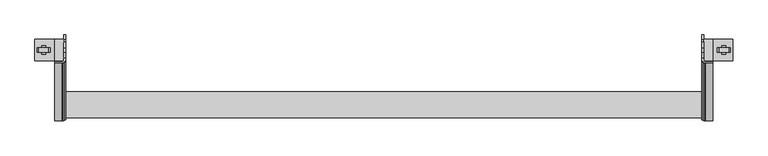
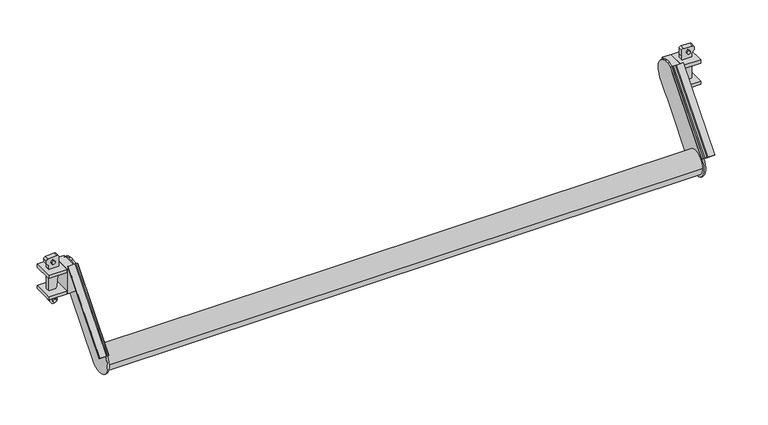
"""IFC4 building model written with IfcOpenShell, lengths in millimetres: proxy geometry, アルバトロスＡＫ階段受け_軽 : アルバトロスＡＫ階段受けL=1200."""

import ifcopenshell
import ifcopenshell.guid

model = None  # the IFC model being written
_history = None  # IfcOwnerHistory: only IFC2X3 demands one
_inside = {}  # id of a spatial element -> (the spatial element, [elements in it])
_under = {}  # id of a project, library or spatial element -> (it, [spatial elements below it])
_declared = {}  # id of a project -> (the project, [libraries it declares])
_typed = {}  # id of a type object -> (the type object, [elements of that type])
_made_of = {}  # id of a material, layer set ... -> (it, [elements and type objects made of it])


def new_model(schema):
    """Start an empty IFC model of exactly this schema.

    Asked for "IFC4X3", IfcOpenShell would pick the latest addendum, in which some entities
    have other attributes; the version numbers below select the first issue.
    IFC2X3 requires an IfcOwnerHistory on every rooted entity: one is made here for all.
    """
    global model, _history
    if schema == "IFC4X3":
        model = ifcopenshell.file(schema_version=(4, 3, 0, 0))
    else:
        model = ifcopenshell.file(schema=schema)
    _inside.clear()
    _under.clear()
    _declared.clear()
    _typed.clear()
    _made_of.clear()
    _history = None
    if model.schema == "IFC2X3":
        org = make("IfcOrganization", Name="unknown")
        user = make(
            "IfcPersonAndOrganization",
            ThePerson=make("IfcPerson", FamilyName="unknown"),
            TheOrganization=org,
        )
        app = make(
            "IfcApplication",
            ApplicationDeveloper=org,
            Version="unknown",
            ApplicationFullName="unknown",
            ApplicationIdentifier="unknown",
        )
        _history = make(
            "IfcOwnerHistory",
            OwningUser=user,
            OwningApplication=app,
            ChangeAction="ADDED",
            CreationDate=0,
        )
    return model


def make(cls, **values):
    """One entity of the class cls with the attributes given. An attribute that is None is left unset."""
    return model.create_entity(
        cls, **{name: value for name, value in values.items() if value is not None}
    )


def rooted(cls, **values):
    """An entity with a GlobalId (a new one), such as an element, a storey or a relation."""
    return make(cls, GlobalId=ifcopenshell.guid.new(), OwnerHistory=_history, **values)


def si_unit(unit_type, name, prefix=None):
    """IfcSIUnit, for example si_unit("LENGTHUNIT", "METRE", prefix="MILLI")."""
    return make("IfcSIUnit", UnitType=unit_type, Prefix=prefix, Name=name)


def assignment(units):
    """IfcUnitAssignment: the units of a project."""
    return None if units is None else make("IfcUnitAssignment", Units=units)


def point(xyz):
    """IfcCartesianPoint."""
    return None if xyz is None else make("IfcCartesianPoint", Coordinates=xyz)


def direction(xyz):
    """IfcDirection."""
    return None if xyz is None else make("IfcDirection", DirectionRatios=xyz)


def frame(location, z_axis=None, x_axis=None):
    """IfcAxis2Placement3D, a coordinate frame: its origin and axes. An axis left out is left unset."""
    return make(
        "IfcAxis2Placement3D",
        Location=point(location),
        Axis=direction(z_axis),
        RefDirection=direction(x_axis),
    )


def frame_2d(location, x_axis=None):
    """IfcAxis2Placement2D, a coordinate frame in the plane: its origin and x axis."""
    return make(
        "IfcAxis2Placement2D", Location=point(location), RefDirection=direction(x_axis)
    )


def origin():
    """The frame at (0, 0, 0) with its axes left unset."""
    return frame((0.0, 0.0, 0.0))


def place(relative_to, where):
    """IfcLocalPlacement: puts the frame where relative to a parent placement (None: the world)."""
    return make(
        "IfcLocalPlacement", PlacementRelTo=relative_to, RelativePlacement=where
    )


def context(
    kind, dimensions, precision=None, world=None, true_north=None, identifier=None
):
    """IfcGeometricRepresentationContext, for example the 3D "Model" context."""
    return make(
        "IfcGeometricRepresentationContext",
        ContextIdentifier=identifier,
        ContextType=kind,
        CoordinateSpaceDimension=dimensions,
        Precision=precision,
        WorldCoordinateSystem=world,
        TrueNorth=true_north,
    )


def project(units=None, contexts=None):
    """IfcProject with its units and contexts."""
    return rooted(
        "IfcProject",
        Name="project",
        RepresentationContexts=contexts,
        UnitsInContext=assignment(units),
    )


def spatial(cls, under=None, at=None, **own):
    """A site, building, storey or space (cls), placed at a placement, below another one or the project."""
    s = rooted(cls, ObjectPlacement=at, **own)
    if under is not None:
        _under.setdefault(under.id(), (under, []))[1].append(s)
    return s


def polyline(points):
    """IfcPolyline through the points."""
    return make("IfcPolyline", Points=[point(p) for p in points])


def circle_curve(where, radius):
    """IfcCircle in the frame where."""
    return make("IfcCircle", Position=where, Radius=radius)


def trimmed(basis, trim1, trim2, sense, master):
    """IfcTrimmedCurve: the piece of a basis curve between two trims."""
    return make(
        "IfcTrimmedCurve",
        BasisCurve=basis,
        Trim1=trim1,
        Trim2=trim2,
        SenseAgreement=sense,
        MasterRepresentation=master,
    )


def segment(curve, same_sense, transition):
    """IfcCompositeCurveSegment."""
    return make(
        "IfcCompositeCurveSegment",
        Transition=transition,
        SameSense=same_sense,
        ParentCurve=curve,
    )


def composite_curve(segments, self_intersect=None):
    """IfcCompositeCurve: segments joined end to end."""
    return make("IfcCompositeCurve", Segments=segments, SelfIntersect=self_intersect)


def outline(outer, holes=None, kind="AREA"):
    """IfcArbitraryClosedProfileDef: a profile drawn as a closed curve; with holes, ...WithVoids."""
    if holes is None:
        return make("IfcArbitraryClosedProfileDef", ProfileType=kind, OuterCurve=outer)
    return make(
        "IfcArbitraryProfileDefWithVoids",
        ProfileType=kind,
        OuterCurve=outer,
        InnerCurves=holes,
    )


def extrude(swept, where, along, depth):
    """IfcExtrudedAreaSolid: the profile swept, set in the frame where, extruded along a direction by depth."""
    return make(
        "IfcExtrudedAreaSolid",
        SweptArea=swept,
        Position=where,
        ExtrudedDirection=direction(along),
        Depth=depth,
    )


def shape(context_of_items, identifier, shape_type, items):
    """IfcShapeRepresentation: the items that make up one representation, for example the "Body"."""
    return make(
        "IfcShapeRepresentation",
        ContextOfItems=context_of_items,
        RepresentationIdentifier=identifier,
        RepresentationType=shape_type,
        Items=items,
    )


def source(mapping_origin, context_of_items, identifier, shape_type, items):
    """IfcRepresentationMap: a shape defined once, which mapped items show again and again."""
    return make(
        "IfcRepresentationMap",
        MappingOrigin=mapping_origin,
        MappedRepresentation=shape(context_of_items, identifier, shape_type, items),
    )


def transform(
    local_origin,
    x_axis=None,
    y_axis=None,
    z_axis=None,
    scale=None,
    scale2=None,
    scale3=None,
    uniform=True,
):
    """IfcCartesianTransformationOperator3D, or its non-uniform kind. x_axis, y_axis, z_axis: its Axis1, 2, 3."""
    if uniform:
        return make(
            "IfcCartesianTransformationOperator3D",
            Axis1=direction(x_axis),
            Axis2=direction(y_axis),
            LocalOrigin=point(local_origin),
            Scale=scale,
            Axis3=direction(z_axis),
        )
    return make(
        "IfcCartesianTransformationOperator3DnonUniform",
        Axis1=direction(x_axis),
        Axis2=direction(y_axis),
        LocalOrigin=point(local_origin),
        Scale=scale,
        Axis3=direction(z_axis),
        Scale2=scale2,
        Scale3=scale3,
    )


def mapped(mapping_source, mapping_target):
    """IfcMappedItem: shows the shape of a source again, moved by a transform."""
    return make(
        "IfcMappedItem", MappingSource=mapping_source, MappingTarget=mapping_target
    )


def made_of(thing, what):
    """Note that an element or type object is made of a material, layer set ...; save() writes the relation."""
    if what is not None:
        _made_of.setdefault(what.id(), (what, []))[1].append(thing)
    return thing


def element(
    cls,
    number,
    at=None,
    inside=None,
    cuts=None,
    type_object=None,
    material=None,
    context=None,
    identifier="Body",
    shape_type=None,
    held_by="IfcProductDefinitionShape",
    body=None,
    shapes=None,
    **own,
):
    """One element of the class cls, such as IfcWall. Its Tag is "e" and its number.

    at: its placement. inside: the storey or other place that contains it. cuts: it is an
    opening in that element (IfcRelVoidsElement). A single representation is given by context,
    identifier, shape_type and body (its items); several are given by shapes. held_by: the class
    of the entity that holds the representations. save() writes the other relations.
    """
    e = rooted(cls, Tag="e%d" % number, ObjectPlacement=at, **own)
    if body is not None:
        shapes = [shape(context, identifier, shape_type, body)]
    if shapes is not None:
        e.Representation = make(held_by, Representations=shapes)
    if inside is not None:
        _inside.setdefault(inside.id(), (inside, []))[1].append(e)
    if cuts is not None:
        rooted(
            "IfcRelVoidsElement", RelatingBuildingElement=cuts, RelatedOpeningElement=e
        )
    if type_object is not None:
        _typed.setdefault(type_object.id(), (type_object, []))[1].append(e)
    return made_of(e, material)


def aggregate(whole, parts):
    """IfcRelAggregates: a whole, such as a stair, and the parts it consists of."""
    return rooted("IfcRelAggregates", RelatingObject=whole, RelatedObjects=parts)


def save(model, path):
    """Write the relations noted so far, then the file.

    IfcRelAggregates (storeys below a building ...), IfcRelContainedInSpatialStructure (elements
    in a storey), IfcRelDefinesByType, IfcRelAssociatesMaterial and IfcRelDeclares: one each for
    every whole, place, type object, material and project.
    """
    for whole, parts in _under.values():
        aggregate(whole, parts)
    for where, things in _inside.values():
        rooted(
            "IfcRelContainedInSpatialStructure",
            RelatedElements=things,
            RelatingStructure=where,
        )
    for kind, things in _typed.values():
        rooted("IfcRelDefinesByType", RelatedObjects=things, RelatingType=kind)
    for what, things in _made_of.values():
        rooted("IfcRelAssociatesMaterial", RelatedObjects=things, RelatingMaterial=what)
    for by, libraries in _declared.values():
        rooted("IfcRelDeclares", RelatingContext=by, RelatedDefinitions=libraries)
    model.write(path)


def plane_surface(at):
    """IfcPlane: the flat surface through the origin of the frame at, square to its z axis."""
    return make("IfcPlane", Position=at)


def cylinder_surface(at, radius):
    """IfcCylindricalSurface: all points at the distance radius from the z axis of the frame at."""
    return make("IfcCylindricalSurface", Position=at, Radius=radius)


def revolved_surface(curve, axis_point, axis_direction):
    """IfcSurfaceOfRevolution: the curve turned about the line through axis_point along axis_direction."""
    return make(
        "IfcSurfaceOfRevolution",
        SweptCurve=make("IfcArbitraryOpenProfileDef", ProfileType="CURVE", Curve=curve),
        AxisPosition=make("IfcAxis1Placement", Location=point(axis_point), Axis=direction(axis_direction)),
    )


def advanced_brep(points, edges, surfaces, faces):
    """IfcAdvancedBrep: a solid bounded by faces that lie on surfaces and meet in shared edges.

    An edge is (start, end): straight between two places in points (the first is 0);
    or (start, end, curve); or (start, end, curve, False) where it runs against its curve.
    A face is (place in surfaces, loops), or (place, loops, False) where it looks against
    its surface's normal. A loop lists edges by number (the first is 1), with a minus sign
    where the edge is run from its end to its start. The first loop is the outer one.
    """
    corners = [point(p) for p in points]
    vertices = [make("IfcVertexPoint", VertexGeometry=c) for c in corners]
    made = []
    for start, end, *more in edges:
        made.append(
            make(
                "IfcEdgeCurve",
                EdgeStart=vertices[start],
                EdgeEnd=vertices[end],
                EdgeGeometry=more[0] if more else make("IfcPolyline", Points=[corners[start], corners[end]]),
                SameSense=more[1] if len(more) > 1 else True,
            )
        )
    hull = []
    for where, loops, *sense in faces:
        bounds = []
        for j, loop in enumerate(loops):
            ring = [make("IfcOrientedEdge", EdgeElement=made[abs(k) - 1], Orientation=k > 0) for k in loop]
            bounds.append(
                make(
                    "IfcFaceOuterBound" if j == 0 else "IfcFaceBound",
                    Bound=make("IfcEdgeLoop", EdgeList=ring),
                    Orientation=True,
                )
            )
        hull.append(make("IfcAdvancedFace", Bounds=bounds, FaceSurface=surfaces[where], SameSense=sense[0] if sense else True))
    return make("IfcAdvancedBrep", Outer=make("IfcClosedShell", CfsFaces=hull))


def generic_models_a82b83a8(model_context):
    return source(origin(), model_context, "Body", "SolidModel", [
        extrude(outline(composite_curve([segment(trimmed(circle_curve(frame_2d((11.8000984, -9.7357724)), 9.7357724), [point((11.8000984, 0.0))], [point((14.2492943, -0.3131027))], False, "CARTESIAN"), True, "CONTINUOUS"), segment(trimmed(circle_curve(frame_2d((12.9630797, -6.2319614)), 6.0569989), [point((14.2492943, -0.3131027))], [point((17.1215477, -1.8280564))], False, "CARTESIAN"), True, "CONTINUOUS"), segment(trimmed(circle_curve(frame_2d((14.7414988, -4.3485782)), 3.4666502), [point((17.1215477, -1.8280564))], [point((18.2001533, -4.113266))], False, "CARTESIAN"), True, "CONTINUOUS"), segment(polyline([(18.2001533, -4.113266), (18.2001533, -4.9115919), (18.2001533, -10.0000796), (15.0001259, -10.0000796), (15.0001259, -4.2792333)]), True, "CONTINUOUS"), segment(trimmed(circle_curve(frame_2d((13.1269546, -4.2792333)), 1.8731712), [point((15.0001259, -4.2792333))], [point((14.1616095, -2.7177405))], True, "CARTESIAN"), True, "CONTINUOUS"), segment(trimmed(circle_curve(frame_2d((12.2844233, -5.5507747)), 3.398516), [point((14.1616095, -2.7177405))], [point((13.1884404, -2.2747002))], True, "CARTESIAN"), True, "CONTINUOUS"), segment(trimmed(circle_curve(frame_2d((11.8000984, -6.5851611)), 4.5285281), [point((13.1884404, -2.2747002))], [point((11.8000984, -2.056633))], True, "CARTESIAN"), True, "CONTINUOUS"), segment(polyline([(11.8000984, -2.056633), (0.0, -2.056633), (0.0, 0.0), (11.8000984, 0.0)]), True, "CONTINUOUS")], self_intersect=False)), frame((1145.2046585, -117.4153513, -83.5064838), z_axis=(0.0, 0.6426904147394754, 0.766125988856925), x_axis=(-1.0, 0.0, 0.0)), (0.0, 0.0, 1.0), 149.5729326),
        advanced_brep(
        [(1127.0045052, -71.4170946, -122.0320182), (1127.0045052, -109.7540265, -89.9334299), (1127.0045052, -19.1532386, 18.0674174), (1127.0045052, -13.564759, 23.0001302), (1127.0045052, -4.0000184, 26.6780861), (1127.0045052, 4.0000533, 26.678085), (1127.0045052, 13.5647929, 23.0001265), (1127.0045052, 17.5001651, 19.8536704), (1127.0045052, 19.1532686, -14.0675085), (1127.0045052, 11.6596821, -23.0002552), (1127.0045052, 4.0001362, -32.1309487), (1127.0045052, -4.000061, -41.6673923), (1130.2045326, -71.4170946, -122.0320182), (1130.2045326, -4.000061, -41.6673923), (1130.2045326, 4.0672955, -32.0506818), (1130.2045326, 11.6596821, -23.0002552), (1130.2045326, 19.1532686, -14.0675085), (1130.2045326, 17.5001651, 19.8536704), (1130.2045326, 13.5647929, 23.0001265), (1130.2045326, 4.0000533, 26.678085), (1130.2045326, -4.0000184, 26.6780861), (1130.2045326, -13.564759, 23.0001302), (1130.2045326, -19.1532386, 18.0674174), (1130.2045326, -109.7540271, -89.9334352)],
        [
            (0, 1, circle_curve(frame((1127.0045052, -90.600769, -106.0008883), z_axis=(-1.0, 0.0, 0.0), x_axis=(0.0, 1.0, 0.0)), 25.0002098)),
            (1, 2),
            (2, 3, circle_curve(frame((1127.0045052, 1.42e-05, 1.9999535), z_axis=(-1.0, 0.0, 0.0), x_axis=(0.0, 1.0, 0.0)), 25.0002098)),
            (3, 4, circle_curve(frame((1127.0045052, 1.42e-05, 1.9999535), z_axis=(-1.0, 0.0, 0.0), x_axis=(0.0, 1.0, 0.0)), 25.0002098)),
            (4, 5, circle_curve(frame((1127.0045052, 1.42e-05, 1.9999535), z_axis=(-1.0, 0.0, 0.0), x_axis=(0.0, 1.0, 0.0)), 25.0002098)),
            (5, 6, circle_curve(frame((1127.0045052, 1.42e-05, 1.9999535), z_axis=(-1.0, 0.0, 0.0), x_axis=(0.0, 1.0, 0.0)), 25.0002098)),
            (6, 7, circle_curve(frame((1127.0045052, 1.42e-05, 1.9999535), z_axis=(-1.0, 0.0, 0.0), x_axis=(0.0, 1.0, 0.0)), 25.0002098)),
            (7, 8, circle_curve(frame((1127.0045052, 1.42e-05, 1.9999535), z_axis=(-1.0, 0.0, 0.0), x_axis=(0.0, 1.0, 0.0)), 25.0002098)),
            (8, 9),
            (9, 10),
            (10, 11),
            (11, 0),
            (12, 13),
            (13, 14),
            (14, 15),
            (15, 16),
            (16, 17, circle_curve(frame((1130.2045326, 1.42e-05, 1.9999535), z_axis=(1.0, 0.0, 0.0), x_axis=(0.0, 1.0, 0.0)), 25.0002098)),
            (17, 18, circle_curve(frame((1130.2045326, 1.42e-05, 1.9999535), z_axis=(1.0, 0.0, 0.0), x_axis=(0.0, 1.0, 0.0)), 25.0002098)),
            (18, 19, circle_curve(frame((1130.2045326, 1.42e-05, 1.9999535), z_axis=(1.0, 0.0, 0.0), x_axis=(0.0, 1.0, 0.0)), 25.0002098)),
            (19, 20, circle_curve(frame((1130.2045326, 1.42e-05, 1.9999535), z_axis=(1.0, 0.0, 0.0), x_axis=(0.0, 1.0, 0.0)), 25.0002098)),
            (20, 21, circle_curve(frame((1130.2045326, 1.42e-05, 1.9999535), z_axis=(1.0, 0.0, 0.0), x_axis=(0.0, 1.0, 0.0)), 25.0002098)),
            (21, 22, circle_curve(frame((1130.2045326, 1.42e-05, 1.9999535), z_axis=(1.0, 0.0, 0.0), x_axis=(0.0, 1.0, 0.0)), 25.0002098)),
            (22, 23),
            (23, 12, circle_curve(frame((1130.2045326, -90.600769, -106.0008883), z_axis=(1.0, 0.0, 0.0), x_axis=(0.0, 1.0, 0.0)), 25.0002098)),
            (11, 13),
            (12, 0),
            (10, 14),
            (9, 15),
            (8, 16),
            (7, 17),
            (6, 18),
            (5, 19),
            (4, 20),
            (3, 21),
            (2, 22),
            (1, 23),
        ],
        [
            plane_surface(frame((1127.0045052, -65.6005592, -106.0008883), z_axis=(-1.0, 0.0, 0.0), x_axis=(0.0, 0.0, -1.0))),
            plane_surface(frame((1130.2045326, -65.6005592, -106.0008883), z_axis=(1.0, 0.0, 0.0), x_axis=(0.0, 0.0, 1.0))),
            plane_surface(frame((1127.0045052, -4.000061, -41.6673923), z_axis=(0.0, 0.7661237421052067, -0.6426930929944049), x_axis=(1.0, 0.0, 0.0))),
            plane_surface(frame((1127.0045052, 4.0672955, -32.0506818), z_axis=(0.0, 0.7661237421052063, -0.6426930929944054), x_axis=(1.0, 0.0, 0.0))),
            plane_surface(frame((1127.0045052, 11.6596821, -23.0002552), z_axis=(0.0, 0.76612771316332, -0.6426883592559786), x_axis=(1.0, 0.0, 0.0))),
            plane_surface(frame((1127.0045052, 19.1532686, -14.0675085), z_axis=(0.0, 0.7661237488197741, -0.6426930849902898), x_axis=(1.0, 0.0, 0.0))),
            cylinder_surface(frame((1130.2045326, 1.42e-05, 1.9999535), z_axis=(-1.0, 0.0, 0.0), x_axis=(0.0, 1.0, 0.0)), 25.0002098),
            plane_surface(frame((1127.0045052, -109.7540271, -89.9334352), z_axis=(0.0, -0.7661236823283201, 0.6426931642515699), x_axis=(1.0, 0.0, 0.0))),
            cylinder_surface(frame((1130.2045326, -90.600769, -106.0008883), z_axis=(-1.0, 0.0, 0.0), x_axis=(0.0, 1.0, 0.0)), 25.0002098),
        ],
        [
            (0, [[1, 2, 3, 4, 5, 6, 7, 8, 9, 10, 11, 12]]),
            (1, [[13, 14, 15, 16, 17, 18, 19, 20, 21, 22, 23, 24]]),
            (2, [[-12, 25, -13, 26]]),
            (3, [[-11, 27, -14, -25]]),
            (4, [[-10, 28, -15, -27]]),
            (5, [[-9, 29, -16, -28]]),
            (6, [[-8, 30, -17, -29]]),
            (6, [[-7, 31, -18, -30]]),
            (6, [[-6, 32, -19, -31]]),
            (6, [[-5, 33, -20, -32]]),
            (6, [[-4, 34, -21, -33]]),
            (6, [[-3, 35, -22, -34]]),
            (7, [[-2, 36, -23, -35]]),
            (8, [[-1, -26, -24, -36]]),
        ],
    ),
        extrude(outline(composite_curve([segment(polyline([(-11.8000984, 0.0), (0.0, 0.0), (0.0, -2.056633), (-11.8000984, -2.056633)]), True, "CONTINUOUS"), segment(trimmed(circle_curve(frame_2d((-11.8000984, -6.5851611)), 4.5285281), [point((-11.8000984, -2.056633))], [point((-13.1884404, -2.2747002))], True, "CARTESIAN"), True, "CONTINUOUS"), segment(trimmed(circle_curve(frame_2d((-12.2844233, -5.5507747)), 3.398516), [point((-13.1884404, -2.2747002))], [point((-14.1616095, -2.7177405))], True, "CARTESIAN"), True, "CONTINUOUS"), segment(trimmed(circle_curve(frame_2d((-13.1269546, -4.2792333)), 1.8731712), [point((-14.1616095, -2.7177405))], [point((-15.0001259, -4.2792333))], True, "CARTESIAN"), True, "CONTINUOUS"), segment(polyline([(-15.0001259, -4.2792333), (-15.0001259, -10.0000796), (-18.2001533, -10.0000796), (-18.2001533, -4.9115919), (-18.2001533, -4.113266)]), True, "CONTINUOUS"), segment(trimmed(circle_curve(frame_2d((-14.7414988, -4.3485782)), 3.4666502), [point((-18.2001533, -4.113266))], [point((-17.1215477, -1.8280564))], False, "CARTESIAN"), True, "CONTINUOUS"), segment(trimmed(circle_curve(frame_2d((-12.9630797, -6.2319614)), 6.0569989), [point((-17.1215477, -1.8280564))], [point((-14.2492943, -0.3131027))], False, "CARTESIAN"), True, "CONTINUOUS"), segment(trimmed(circle_curve(frame_2d((-11.8000984, -9.7357724)), 9.7357724), [point((-14.2492943, -0.3131027))], [point((-11.8000984, 0.0))], False, "CARTESIAN"), True, "CONTINUOUS")], self_intersect=False)), frame((54.7953415, -117.4153513, -83.5064838), z_axis=(0.0, 0.6426904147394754, 0.766125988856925), x_axis=(-1.0, 0.0, 0.0)), (0.0, 0.0, 1.0), 149.5729326),
        extrude(outline(polyline([(1130.2045326, -17.5001831), (1130.2045326, 17.500061), (1145.2046585, 17.500061), (1145.2046585, -17.5001831), (1130.2045326, -17.5001831)])), frame((0.0, 0.0, -23.0001931), z_axis=(0.0, 0.0, 1.0), x_axis=(1.0, 0.0, 0.0)), (0.0, 0.0, 1.0), 46.0003862),
        extrude(outline(polyline([(1145.2046585, -17.5001831), (1145.2046585, 17.500061), (1177.7249298, 17.500061), (1177.7249298, -17.5001831), (1145.2046585, -17.5001831)])), frame((0.0, 0.0, -23.0001931), z_axis=(0.0, 0.0, 1.0), x_axis=(1.0, 0.0, 0.0)), (0.0, 0.0, 1.0), 6.0000505),
        extrude(outline(polyline([(1145.2046585, -17.5001831), (1145.2046585, 17.500061), (1177.7249298, 17.500061), (1177.7249298, -17.5001831), (1145.2046585, -17.5001831)])), frame((0.0, 0.0, 17.0001426), z_axis=(0.0, 0.0, 1.0), x_axis=(1.0, 0.0, 0.0)), (0.0, 0.0, 1.0), 6.0000505),
        extrude(outline(composite_curve([segment(trimmed(circle_curve(frame_2d((-36.8688423, 1160.6740685)), 3.000025), [point((-36.8688423, 1163.6740935))], [point((-36.8688423, 1157.6740435))], False, "CARTESIAN"), True, "CONTINUOUS"), segment(trimmed(circle_curve(frame_2d((-36.8688423, 1160.6740685)), 3.000025), [point((-36.8688423, 1157.6740435))], [point((-36.8688423, 1163.6740935))], False, "CARTESIAN"), True, "CONTINUOUS")], self_intersect=False)), frame((0.0, -6.7180681, 0.0), z_axis=(0.0, 1.0, 0.0), x_axis=(0.0, 0.0, 1.0)), (0.0, 0.0, 1.0), 13.4905305),
        extrude(outline(composite_curve([segment(trimmed(circle_curve(frame_2d((35.318295, 1163.1048088)), 3.000025), [point((35.318295, 1166.1048338))], [point((35.318295, 1160.1047838))], False, "CARTESIAN"), True, "CONTINUOUS"), segment(trimmed(circle_curve(frame_2d((35.318295, 1163.1048088)), 3.000025), [point((35.318295, 1160.1047838))], [point((35.318295, 1166.1048338))], False, "CARTESIAN"), True, "CONTINUOUS")], self_intersect=False)), frame((0.0, -6.7180681, 0.0), z_axis=(0.0, 1.0, 0.0), x_axis=(0.0, 0.0, 1.0)), (0.0, 0.0, 1.0), 13.4905305),
        advanced_brep(
        [(1170.104866, -4.000061, 23.0001931), (1170.104866, -4.000061, 31.3182626), (1174.1049004, -4.000061, 35.318295), (1174.1049004, -4.000061, 40.1273351), (1171.1049024, -4.000061, 43.1273601), (1155.1047689, -4.000061, 44.0563686), (1152.1047151, -4.000061, 41.0563436), (1152.1047134, -4.000061, 29.3182692), (1153.2329292, -4.000061, 17.0001426), (1155.9327461, -4.000061, -12.4770955), (1157.7334455, -4.000061, -17.0001397), (1158.6987605, -4.000061, -23.0001924), (1157.6076064, -4.000061, -31.3049199), (1155.9855849, -4.000061, -33.6219485), (1165.2963577, -4.000061, -41.1471163), (1170.1048641, -4.000061, -28.9002414), (1170.104866, -4.000061, -23.0001922), (1170.104866, -4.000061, -17.0001426), (1170.104866, -4.000061, 17.0001426), (1170.104866, 4.000061, 23.0001931), (1170.104866, 4.000061, 17.0001426), (1170.104866, 4.000061, -17.0001426), (1170.104866, 4.000061, -23.0001922), (1170.104866, 4.000061, -28.9002414), (1165.2963577, 4.000061, -41.1471163), (1155.9855849, 4.000061, -33.6219485), (1157.6076064, 4.000061, -31.3049199), (1158.6987605, 4.000061, -23.0001924), (1157.7334455, 4.000061, -17.0001397), (1155.9327461, 4.000061, -12.4770955), (1153.2329292, 4.000061, 17.0001426), (1152.1047134, 4.000061, 29.3182692), (1152.1047134, 4.000061, 41.0563436), (1155.1047689, 4.000061, 44.0563686), (1171.1049024, 4.000061, 43.1273601), (1174.1048987, 4.000061, 40.1273351), (1174.1049004, 4.000061, 35.318295), (1170.104866, 4.000061, 31.3182626)],
        [
            (0, 1),
            (1, 2),
            (2, 3),
            (3, 4, circle_curve(frame((1171.1048737, -4.000061, 40.1273351), z_axis=(0.0, -1.0, 0.0), x_axis=(-1.0, 0.0, 0.0)), 3.000025)),
            (4, 5),
            (5, 6, circle_curve(frame((1155.1047401, -4.000061, 41.0563436), z_axis=(0.0, -1.0, 0.0), x_axis=(-1.0, 0.0, 0.0)), 3.000025)),
            (6, 7),
            (7, 8),
            (8, 9),
            (9, 10, circle_curve(frame((1133.7162895, -4.000061, -23.9418044), z_axis=(0.0, 1.0, 0.0), x_axis=(-1.0, 0.0, 0.0)), 25.0002098)),
            (10, 11),
            (11, 12, circle_curve(frame((1133.7162895, -4.000061, -23.9418044), z_axis=(0.0, 1.0, 0.0), x_axis=(-1.0, 0.0, 0.0)), 25.0002098)),
            (12, 13),
            (13, 14, circle_curve(frame((1160.9008598, -4.000061, -37.0629764), z_axis=(0.0, -1.0, 0.0), x_axis=(-1.0, 0.0, 0.0)), 6.0000501)),
            (14, 15, circle_curve(frame((1152.1047134, -4.000061, -28.9002414), z_axis=(0.0, -1.0, 0.0), x_axis=(-1.0, 0.0, 0.0)), 18.0001507)),
            (15, 16),
            (16, 17),
            (17, 18),
            (18, 0),
            (19, 20),
            (20, 21),
            (21, 22),
            (22, 23),
            (23, 24, circle_curve(frame((1152.1047134, 4.000061, -28.9002414), z_axis=(0.0, 1.0, 0.0), x_axis=(-1.0, 0.0, 0.0)), 18.0001507)),
            (24, 25, circle_curve(frame((1160.9008598, 4.000061, -37.0629764), z_axis=(0.0, 1.0, 0.0), x_axis=(-1.0, 0.0, 0.0)), 6.0000501)),
            (25, 26),
            (26, 27, circle_curve(frame((1133.7162895, 4.000061, -23.9418044), z_axis=(0.0, -1.0, 0.0), x_axis=(-1.0, 0.0, 0.0)), 25.0002098)),
            (27, 28),
            (28, 29, circle_curve(frame((1133.7162895, 4.000061, -23.9418044), z_axis=(0.0, -1.0, 0.0), x_axis=(-1.0, 0.0, 0.0)), 25.0002098)),
            (29, 30),
            (30, 31),
            (31, 32),
            (32, 33, circle_curve(frame((1155.1047401, 4.000061, 41.0563436), z_axis=(0.0, 1.0, 0.0), x_axis=(-1.0, 0.0, 0.0)), 3.000025)),
            (33, 34),
            (34, 35, circle_curve(frame((1171.1048737, 4.000061, 40.1273351), z_axis=(0.0, 1.0, 0.0), x_axis=(-1.0, 0.0, 0.0)), 3.000025)),
            (35, 36),
            (36, 37),
            (37, 19),
            (18, 20),
            (19, 0),
            (17, 21),
            (16, 22),
            (15, 23),
            (14, 24),
            (13, 25),
            (12, 26),
            (11, 27),
            (10, 28),
            (9, 29),
            (8, 30),
            (7, 31),
            (6, 32),
            (5, 33),
            (4, 34),
            (3, 35),
            (2, 36),
            (1, 37),
        ],
        [
            plane_surface(frame((1170.104866, -4.000061, 31.3182626), z_axis=(0.0, -1.0, 0.0), x_axis=(0.0, 0.0, 1.0))),
            plane_surface(frame((1170.104866, 4.000061, 31.3182626), z_axis=(0.0, 1.0, 0.0), x_axis=(0.0, 0.0, -1.0))),
            plane_surface(frame((1170.104866, -4.000061, 17.0001426), z_axis=(1.0, 0.0, 0.0), x_axis=(0.0, 1.0, 0.0))),
            plane_surface(frame((1170.104866, -4.000061, -17.0001426), z_axis=(1.0, 0.0, 0.0), x_axis=(0.0, 1.0, 0.0))),
            plane_surface(frame((1170.104866, -4.000061, -23.0001922), z_axis=(1.0, 0.0, 0.0), x_axis=(0.0, 1.0, 0.0))),
            plane_surface(frame((1170.104866, -4.000061, -28.9002414), z_axis=(1.0, 0.0, 0.0), x_axis=(0.0, 1.0, 0.0))),
            cylinder_surface(frame((1152.1047134, 4.000061, -28.9002414), z_axis=(0.0, -1.0, 0.0), x_axis=(-1.0, 0.0, 0.0)), 18.0001507),
            cylinder_surface(frame((1160.9008598, 4.000061, -37.0629764), z_axis=(0.0, -1.0, 0.0), x_axis=(-1.0, 0.0, 0.0)), 6.0000501),
            plane_surface(frame((1157.6076064, -4.000061, -31.3049199), z_axis=(-0.8192150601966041, 0.0, 0.5734864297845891), x_axis=(0.0, 1.0, 0.0))),
            revolved_surface(polyline([(1108.7160797, 4.000061, -23.9418044), (1108.7160797, -4.000061, -23.9418044)]), (1133.7162895, 4.000061, -23.9418044), (0.0, 1.0, 0.0)),
            plane_surface(frame((1157.7334455, -4.000061, -17.0001397), z_axis=(-0.9873040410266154, 0.0, -0.15884184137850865), x_axis=(0.0, 1.0, 0.0))),
            plane_surface(frame((1153.2329292, -4.000061, 17.0001426), z_axis=(-0.9958318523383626, 0.0, -0.09120812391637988), x_axis=(0.0, 1.0, 0.0))),
            plane_surface(frame((1152.1047134, -4.000061, 29.3182692), z_axis=(-0.9958318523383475, 0.0, -0.09120812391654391), x_axis=(0.0, 1.0, 0.0))),
            plane_surface(frame((1152.1047134, -4.000061, 41.0563436), z_axis=(-1.0, 0.0, 0.0), x_axis=(0.0, 1.0, 0.0))),
            cylinder_surface(frame((1155.1047401, 4.000061, 41.0563436), z_axis=(0.0, -1.0, 0.0), x_axis=(-1.0, 0.0, 0.0)), 3.000025),
            plane_surface(frame((1171.1049024, -4.000061, 43.1273601), z_axis=(0.0579649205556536, 0.0, 0.998318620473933), x_axis=(0.0, 1.0, 0.0))),
            cylinder_surface(frame((1171.1048737, 4.000061, 40.1273351), z_axis=(0.0, -1.0, 0.0), x_axis=(-1.0, 0.0, 0.0)), 3.000025),
            plane_surface(frame((1174.1049004, -4.000061, 35.318295), z_axis=(1.0, 0.0, 0.0), x_axis=(0.0, 1.0, 0.0))),
            plane_surface(frame((1170.104866, -4.000061, 31.3182626), z_axis=(0.7071066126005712, 0.0, -0.7071069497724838), x_axis=(0.0, 1.0, 0.0))),
            plane_surface(frame((1170.104866, -4.000061, 23.0001931), z_axis=(1.0, 0.0, 0.0), x_axis=(0.0, 1.0, 0.0))),
        ],
        [
            (0, [[1, 2, 3, 4, 5, 6, 7, 8, 9, 10, 11, 12, 13, 14, 15, 16, 17, 18, 19]]),
            (1, [[20, 21, 22, 23, 24, 25, 26, 27, 28, 29, 30, 31, 32, 33, 34, 35, 36, 37, 38]]),
            (2, [[-19, 39, -20, 40]]),
            (3, [[-18, 41, -21, -39]]),
            (4, [[-17, 42, -22, -41]]),
            (5, [[-16, 43, -23, -42]]),
            (6, [[-15, 44, -24, -43]]),
            (7, [[-14, 45, -25, -44]]),
            (8, [[-13, 46, -26, -45]]),
            (9, [[-12, 47, -27, -46]]),
            (10, [[-11, 48, -28, -47]]),
            (9, [[-10, 49, -29, -48]]),
            (11, [[-9, 50, -30, -49]]),
            (12, [[-8, 51, -31, -50]]),
            (13, [[-7, 52, -32, -51]]),
            (14, [[-6, 53, -33, -52]]),
            (15, [[-5, 54, -34, -53]]),
            (16, [[-4, 55, -35, -54]]),
            (17, [[-3, 56, -36, -55]]),
            (18, [[-2, 57, -37, -56]]),
            (19, [[-1, -40, -38, -57]]),
        ],
    ),
        extrude(outline(polyline([(69.7954674, 17.500061), (69.7954674, -17.5001831), (54.7953415, -17.5001831), (54.7953415, 17.500061), (69.7954674, 17.500061)])), frame((0.0, 0.0, -23.0001931), z_axis=(0.0, 0.0, 1.0), x_axis=(1.0, 0.0, 0.0)), (0.0, 0.0, 1.0), 46.0003862),
        extrude(outline(polyline([(54.7953415, 17.500061), (54.7953415, -17.5001831), (22.2750702, -17.5001831), (22.2750702, 17.500061), (54.7953415, 17.500061)])), frame((0.0, 0.0, -23.0001931), z_axis=(0.0, 0.0, 1.0), x_axis=(1.0, 0.0, 0.0)), (0.0, 0.0, 1.0), 6.0000505),
        extrude(outline(polyline([(54.7953415, 17.500061), (54.7953415, -17.5001831), (22.2750702, -17.5001831), (22.2750702, 17.500061), (54.7953415, 17.500061)])), frame((0.0, 0.0, 17.0001426), z_axis=(0.0, 0.0, 1.0), x_axis=(1.0, 0.0, 0.0)), (0.0, 0.0, 1.0), 6.0000505),
        extrude(outline(composite_curve([segment(trimmed(circle_curve(frame_2d((-36.8688423, 39.3259315)), 3.000025), [point((-36.8688423, 36.3259065))], [point((-36.8688423, 42.3259565))], False, "CARTESIAN"), True, "CONTINUOUS"), segment(trimmed(circle_curve(frame_2d((-36.8688423, 39.3259315)), 3.000025), [point((-36.8688423, 42.3259565))], [point((-36.8688423, 36.3259065))], False, "CARTESIAN"), True, "CONTINUOUS")], self_intersect=False)), frame((0.0, -6.7180681, 0.0), z_axis=(0.0, 1.0, 0.0), x_axis=(0.0, 0.0, 1.0)), (0.0, 0.0, 1.0), 13.4905305),
        extrude(outline(composite_curve([segment(trimmed(circle_curve(frame_2d((35.318295, 36.8951912)), 3.000025), [point((35.318295, 33.8951662))], [point((35.318295, 39.8952162))], False, "CARTESIAN"), True, "CONTINUOUS"), segment(trimmed(circle_curve(frame_2d((35.318295, 36.8951912)), 3.000025), [point((35.318295, 39.8952162))], [point((35.318295, 33.8951662))], False, "CARTESIAN"), True, "CONTINUOUS")], self_intersect=False)), frame((0.0, -6.7180681, 0.0), z_axis=(0.0, 1.0, 0.0), x_axis=(0.0, 0.0, 1.0)), (0.0, 0.0, 1.0), 13.4905305),
        advanced_brep(
        [(29.895134, -4.000061, 23.0001931), (29.895134, -4.000061, 17.0001426), (29.895134, -4.000061, -17.0001426), (29.895134, -4.000061, -23.0001922), (29.895134, -4.000061, -28.9002414), (34.7036423, -4.000061, -41.1471163), (44.0144151, -4.000061, -33.6219485), (42.3923936, -4.000061, -31.3049199), (41.3012395, -4.000061, -23.0001924), (42.2665545, -4.000061, -17.0001397), (44.0672539, -4.000061, -12.4770955), (46.7670708, -4.000061, 17.0001426), (47.8952866, -4.000061, 29.3182692), (47.8952866, -4.000061, 41.0563436), (44.8952311, -4.000061, 44.0563686), (28.8950976, -4.000061, 43.1273601), (25.8951013, -4.000061, 40.1273351), (25.8950996, -4.000061, 35.318295), (29.895134, -4.000061, 31.3182626), (29.895134, 4.000061, 23.0001931), (29.895134, 4.000061, 31.3182626), (25.8950996, 4.000061, 35.318295), (25.8950996, 4.000061, 40.1273351), (28.8950976, 4.000061, 43.1273601), (44.8952311, 4.000061, 44.0563686), (47.8952849, 4.000061, 41.0563436), (47.8952866, 4.000061, 29.3182692), (46.7670708, 4.000061, 17.0001426), (44.0672539, 4.000061, -12.4770955), (42.2665545, 4.000061, -17.0001397), (41.3012395, 4.000061, -23.0001924), (42.3923936, 4.000061, -31.3049199), (44.0144157, 4.000061, -33.6219478), (34.7036423, 4.000061, -41.1471163), (29.8951359, 4.000061, -28.9002414), (29.895134, 4.000061, -23.0001922), (29.895134, 4.000061, -17.0001426), (29.895134, 4.000061, 17.0001426)],
        [
            (0, 1),
            (1, 2),
            (2, 3),
            (3, 4),
            (4, 5, circle_curve(frame((47.8952866, -4.000061, -28.9002414), z_axis=(0.0, -1.0, 0.0), x_axis=(1.0, 0.0, 0.0)), 18.0001507)),
            (5, 6, circle_curve(frame((39.0991402, -4.000061, -37.0629764), z_axis=(0.0, -1.0, 0.0), x_axis=(1.0, 0.0, 0.0)), 6.0000501)),
            (6, 7),
            (7, 8, circle_curve(frame((66.2837105, -4.000061, -23.9418044), z_axis=(0.0, 1.0, 0.0), x_axis=(1.0, 0.0, 0.0)), 25.0002098)),
            (8, 9),
            (9, 10, circle_curve(frame((66.2837105, -4.000061, -23.9418044), z_axis=(0.0, 1.0, 0.0), x_axis=(1.0, 0.0, 0.0)), 25.0002098)),
            (10, 11),
            (11, 12),
            (12, 13),
            (13, 14, circle_curve(frame((44.8952599, -4.000061, 41.0563436), z_axis=(0.0, -1.0, 0.0), x_axis=(1.0, 0.0, 0.0)), 3.000025)),
            (14, 15),
            (15, 16, circle_curve(frame((28.8951263, -4.000061, 40.1273351), z_axis=(0.0, -1.0, 0.0), x_axis=(1.0, 0.0, 0.0)), 3.000025)),
            (16, 17),
            (17, 18),
            (18, 0),
            (19, 20),
            (20, 21),
            (21, 22),
            (22, 23, circle_curve(frame((28.8951263, 4.000061, 40.1273351), z_axis=(0.0, 1.0, 0.0), x_axis=(1.0, 0.0, 0.0)), 3.000025)),
            (23, 24),
            (24, 25, circle_curve(frame((44.8952599, 4.000061, 41.0563436), z_axis=(0.0, 1.0, 0.0), x_axis=(1.0, 0.0, 0.0)), 3.000025)),
            (25, 26),
            (26, 27),
            (27, 28),
            (28, 29, circle_curve(frame((66.2837105, 4.000061, -23.9418044), z_axis=(0.0, -1.0, 0.0), x_axis=(1.0, 0.0, 0.0)), 25.0002098)),
            (29, 30),
            (30, 31, circle_curve(frame((66.2837105, 4.000061, -23.9418044), z_axis=(0.0, -1.0, 0.0), x_axis=(1.0, 0.0, 0.0)), 25.0002098)),
            (31, 32),
            (32, 33, circle_curve(frame((39.0991402, 4.000061, -37.0629764), z_axis=(0.0, 1.0, 0.0), x_axis=(1.0, 0.0, 0.0)), 6.0000501)),
            (33, 34, circle_curve(frame((47.8952866, 4.000061, -28.9002414), z_axis=(0.0, 1.0, 0.0), x_axis=(1.0, 0.0, 0.0)), 18.0001507)),
            (34, 35),
            (35, 36),
            (36, 37),
            (37, 19),
            (0, 19),
            (37, 1),
            (36, 2),
            (35, 3),
            (34, 4),
            (33, 5),
            (32, 6),
            (31, 7),
            (30, 8),
            (29, 9),
            (28, 10),
            (27, 11),
            (26, 12),
            (25, 13),
            (24, 14),
            (23, 15),
            (22, 16),
            (21, 17),
            (20, 18),
        ],
        [
            plane_surface(frame((29.895134, -4.000061, 17.0001426), z_axis=(0.0, -1.0, 0.0), x_axis=(0.0, 0.0, -1.0))),
            plane_surface(frame((29.895134, 4.000061, 17.0001426), z_axis=(0.0, 1.0, 0.0), x_axis=(0.0, 0.0, 1.0))),
            plane_surface(frame((29.895134, -4.000061, 23.0001931), z_axis=(-1.0, 0.0, 0.0), x_axis=(0.0, 1.0, 0.0))),
            plane_surface(frame((29.895134, -4.000061, 17.0001426), z_axis=(-1.0, 0.0, 0.0), x_axis=(0.0, 1.0, 0.0))),
            plane_surface(frame((29.895134, -4.000061, -17.0001426), z_axis=(-1.0, 0.0, 0.0), x_axis=(0.0, 1.0, 0.0))),
            plane_surface(frame((29.895134, -4.000061, -23.0001922), z_axis=(-1.0, 0.0, 0.0), x_axis=(0.0, 1.0, 0.0))),
            cylinder_surface(frame((47.8952866, 4.000061, -28.9002414), z_axis=(0.0, -1.0, 0.0), x_axis=(1.0, 0.0, 0.0)), 18.0001507),
            cylinder_surface(frame((39.0991402, 4.000061, -37.0629764), z_axis=(0.0, -1.0, 0.0), x_axis=(1.0, 0.0, 0.0)), 6.0000501),
            plane_surface(frame((44.0144157, -4.000061, -33.6219478), z_axis=(0.8192148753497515, 0.0, 0.5734866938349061), x_axis=(0.0, 1.0, 0.0))),
            revolved_surface(polyline([(91.2839203, 4.000061, -23.9418044), (91.2839203, -4.000061, -23.9418044)]), (66.2837105, 4.000061, -23.9418044), (0.0, 1.0, 0.0)),
            plane_surface(frame((41.3012395, -4.000061, -23.0001924), z_axis=(0.9873040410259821, 0.0, -0.15884184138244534), x_axis=(0.0, 1.0, 0.0))),
            plane_surface(frame((44.0672539, -4.000061, -12.4770955), z_axis=(0.9958318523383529, 0.0, -0.09120812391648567), x_axis=(0.0, 1.0, 0.0))),
            plane_surface(frame((46.7670708, -4.000061, 17.0001426), z_axis=(0.9958318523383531, 0.0, -0.09120812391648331), x_axis=(0.0, 1.0, 0.0))),
            plane_surface(frame((47.8952866, -4.000061, 29.3182692), z_axis=(1.0, 0.0, 0.0), x_axis=(0.0, 1.0, 0.0))),
            cylinder_surface(frame((44.8952599, 4.000061, 41.0563436), z_axis=(0.0, -1.0, 0.0), x_axis=(1.0, 0.0, 0.0)), 3.000025),
            plane_surface(frame((44.8952311, -4.000061, 44.0563686), z_axis=(-0.05796492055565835, 0.0, 0.9983186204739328), x_axis=(0.0, 1.0, 0.0))),
            cylinder_surface(frame((28.8951263, 4.000061, 40.1273351), z_axis=(0.0, -1.0, 0.0), x_axis=(1.0, 0.0, 0.0)), 3.000025),
            plane_surface(frame((25.8950996, -4.000061, 40.1273351), z_axis=(-1.0, 0.0, 0.0), x_axis=(0.0, 1.0, 0.0))),
            plane_surface(frame((25.8950996, -4.000061, 35.318295), z_axis=(-0.7071066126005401, 0.0, -0.7071069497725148), x_axis=(0.0, 1.0, 0.0))),
            plane_surface(frame((29.895134, -4.000061, 31.3182626), z_axis=(-1.0, 0.0, 0.0), x_axis=(0.0, 1.0, 0.0))),
        ],
        [
            (0, [[1, 2, 3, 4, 5, 6, 7, 8, 9, 10, 11, 12, 13, 14, 15, 16, 17, 18, 19]]),
            (1, [[20, 21, 22, 23, 24, 25, 26, 27, 28, 29, 30, 31, 32, 33, 34, 35, 36, 37, 38]]),
            (2, [[-1, 39, -38, 40]]),
            (3, [[-2, -40, -37, 41]]),
            (4, [[-3, -41, -36, 42]]),
            (5, [[-4, -42, -35, 43]]),
            (6, [[-5, -43, -34, 44]]),
            (7, [[-6, -44, -33, 45]]),
            (8, [[-7, -45, -32, 46]]),
            (9, [[-8, -46, -31, 47]]),
            (10, [[-9, -47, -30, 48]]),
            (9, [[-10, -48, -29, 49]]),
            (11, [[-11, -49, -28, 50]]),
            (12, [[-12, -50, -27, 51]]),
            (13, [[-13, -51, -26, 52]]),
            (14, [[-14, -52, -25, 53]]),
            (15, [[-15, -53, -24, 54]]),
            (16, [[-16, -54, -23, 55]]),
            (17, [[-17, -55, -22, 56]]),
            (18, [[-18, -56, -21, 57]]),
            (19, [[-19, -57, -20, -39]]),
        ],
    ),
        advanced_brep(
        [(72.9954948, -71.4170946, -122.0320182), (72.9954948, -4.000061, -41.6673923), (72.9954948, 4.0672955, -32.0506818), (72.9954948, 11.6596069, -23.0001922), (72.9954948, 19.1531934, -14.0674454), (72.9954948, 17.5000899, 19.8537334), (72.9954948, 13.5647177, 23.0001896), (72.9954948, 3.9999781, 26.6781481), (72.9954948, -4.0000936, 26.6781492), (72.9954948, -13.5648342, 23.0001932), (72.9954948, -19.1533138, 18.0674805), (72.9954948, -109.7541023, -89.9333721), (69.7954674, -71.4170946, -122.0320182), (69.7954674, -109.7540265, -89.9334299), (69.7954674, -19.1533138, 18.0674805), (69.7954674, -13.5648342, 23.0001932), (69.7954674, -4.0000936, 26.6781492), (69.7954674, 3.9999781, 26.6781481), (69.7954674, 13.5647177, 23.0001896), (69.7954674, 17.5000899, 19.8537334), (69.7954674, 19.1531934, -14.0674454), (69.7954674, 11.6596069, -23.0001922), (69.7954674, 4.000061, -32.1308856), (69.7954674, -4.000061, -41.6673923)],
        [
            (0, 1),
            (1, 2),
            (2, 3),
            (3, 4),
            (4, 5, circle_curve(frame((72.9954948, -6.1e-05, 2.0000166), z_axis=(1.0, 0.0, 0.0), x_axis=(0.0, 1.0, 0.0)), 25.0002098)),
            (5, 6, circle_curve(frame((72.9954948, -6.1e-05, 2.0000166), z_axis=(1.0, 0.0, 0.0), x_axis=(0.0, 1.0, 0.0)), 25.0002098)),
            (6, 7, circle_curve(frame((72.9954948, -6.1e-05, 2.0000166), z_axis=(1.0, 0.0, 0.0), x_axis=(0.0, 1.0, 0.0)), 25.0002098)),
            (7, 8, circle_curve(frame((72.9954948, -6.1e-05, 2.0000166), z_axis=(1.0, 0.0, 0.0), x_axis=(0.0, 1.0, 0.0)), 25.0002098)),
            (8, 9, circle_curve(frame((72.9954948, -6.1e-05, 2.0000166), z_axis=(1.0, 0.0, 0.0), x_axis=(0.0, 1.0, 0.0)), 25.0002098)),
            (9, 10, circle_curve(frame((72.9954948, -6.1e-05, 2.0000166), z_axis=(1.0, 0.0, 0.0), x_axis=(0.0, 1.0, 0.0)), 25.0002098)),
            (10, 11),
            (11, 0, circle_curve(frame((72.9954948, -90.600769, -106.0008883), z_axis=(1.0, 0.0, 0.0), x_axis=(0.0, 1.0, 0.0)), 25.0002098)),
            (12, 13, circle_curve(frame((69.7954674, -90.600769, -106.0008883), z_axis=(-1.0, 0.0, 0.0), x_axis=(0.0, 1.0, 0.0)), 25.0002098)),
            (13, 14),
            (14, 15, circle_curve(frame((69.7954674, -6.1e-05, 2.0000166), z_axis=(-1.0, 0.0, 0.0), x_axis=(0.0, 1.0, 0.0)), 25.0002098)),
            (15, 16, circle_curve(frame((69.7954674, -6.1e-05, 2.0000166), z_axis=(-1.0, 0.0, 0.0), x_axis=(0.0, 1.0, 0.0)), 25.0002098)),
            (16, 17, circle_curve(frame((69.7954674, -6.1e-05, 2.0000166), z_axis=(-1.0, 0.0, 0.0), x_axis=(0.0, 1.0, 0.0)), 25.0002098)),
            (17, 18, circle_curve(frame((69.7954674, -6.1e-05, 2.0000166), z_axis=(-1.0, 0.0, 0.0), x_axis=(0.0, 1.0, 0.0)), 25.0002098)),
            (18, 19, circle_curve(frame((69.7954674, -6.1e-05, 2.0000166), z_axis=(-1.0, 0.0, 0.0), x_axis=(0.0, 1.0, 0.0)), 25.0002098)),
            (19, 20, circle_curve(frame((69.7954674, -6.1e-05, 2.0000166), z_axis=(-1.0, 0.0, 0.0), x_axis=(0.0, 1.0, 0.0)), 25.0002098)),
            (20, 21),
            (21, 22),
            (22, 23),
            (23, 12),
            (0, 12),
            (23, 1),
            (22, 2),
            (21, 3),
            (20, 4),
            (19, 5),
            (18, 6),
            (17, 7),
            (16, 8),
            (15, 9),
            (14, 10),
            (13, 11),
        ],
        [
            plane_surface(frame((72.9954948, -71.4475708, -122.0683475), z_axis=(1.0, 0.0, 0.0), x_axis=(0.0, 0.6426930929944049, 0.7661237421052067))),
            plane_surface(frame((69.7954674, -71.4475708, -122.0683475), z_axis=(-1.0, 0.0, 0.0), x_axis=(0.0, -0.6426930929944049, -0.7661237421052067))),
            plane_surface(frame((72.9954948, -71.4170946, -122.0320182), z_axis=(0.0, 0.7661237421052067, -0.6426930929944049), x_axis=(-1.0, 0.0, 0.0))),
            plane_surface(frame((72.9954948, -4.000061, -41.6673923), z_axis=(0.0, 0.7661237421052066, -0.642693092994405), x_axis=(-1.0, 0.0, 0.0))),
            plane_surface(frame((72.9954948, 4.000061, -32.1308856), z_axis=(0.0, 0.76612771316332, -0.6426883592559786), x_axis=(-1.0, 0.0, 0.0))),
            plane_surface(frame((72.9954948, 11.6596069, -23.0001922), z_axis=(0.0, 0.7661237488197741, -0.6426930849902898), x_axis=(-1.0, 0.0, 0.0))),
            cylinder_surface(frame((69.7954674, -6.1e-05, 2.0000166), z_axis=(1.0, 0.0, 0.0), x_axis=(0.0, 1.0, 0.0)), 25.0002098),
            plane_surface(frame((72.9954948, -19.1533138, 18.0674805), z_axis=(0.0, -0.7661236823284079, 0.6426931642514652), x_axis=(-1.0, 0.0, 0.0))),
            cylinder_surface(frame((69.7954674, -90.600769, -106.0008883), z_axis=(1.0, 0.0, 0.0), x_axis=(0.0, 1.0, 0.0)), 25.0002098),
        ],
        [
            (0, [[1, 2, 3, 4, 5, 6, 7, 8, 9, 10, 11, 12]]),
            (1, [[13, 14, 15, 16, 17, 18, 19, 20, 21, 22, 23, 24]]),
            (2, [[-1, 25, -24, 26]]),
            (3, [[-2, -26, -23, 27]]),
            (4, [[-3, -27, -22, 28]]),
            (5, [[-4, -28, -21, 29]]),
            (6, [[-5, -29, -20, 30]]),
            (6, [[-6, -30, -19, 31]]),
            (6, [[-7, -31, -18, 32]]),
            (6, [[-8, -32, -17, 33]]),
            (6, [[-9, -33, -16, 34]]),
            (6, [[-10, -34, -15, 35]]),
            (7, [[-11, -35, -14, 36]]),
            (8, [[-12, -36, -13, -25]]),
        ],
    ),
        extrude(outline(composite_curve([segment(trimmed(circle_curve(frame_2d((-90.6008005, -106.000888)), 21.35), [point((-111.9508005, -106.000888))], [point((-69.2508005, -106.000888))], False, "CARTESIAN"), True, "CONTINUOUS"), segment(trimmed(circle_curve(frame_2d((-90.6008005, -106.000888)), 21.35), [point((-69.2508005, -106.000888))], [point((-111.9508005, -106.000888))], False, "CARTESIAN"), True, "CONTINUOUS")], self_intersect=False)), frame((72.9954948, 0.0, 0.0), z_axis=(1.0, 0.0, 0.0), x_axis=(0.0, 1.0, 0.0)), (0.0, 0.0, 1.0), 1054.0090103),
    ])


if __name__ == "__main__":
    model = new_model("IFC4")
    model_context = context("Model", 3, world=origin())
    ifc_project = project(units=[si_unit("LENGTHUNIT", "METRE", prefix="MILLI")], contexts=[model_context])
    site = spatial("IfcSite", under=ifc_project)
    building = spatial("IfcBuilding", under=site)
    placement = place(None, origin())
    generic_models_shape = generic_models_a82b83a8(model_context)
    element("IfcBuildingElementProxy", 1, Name="アルバトロスＡＫ階段受け_軽 : アルバトロスＡＫ階段受けL=1200", ObjectType="アルバトロスＡＫ階段受け_軽 : アルバトロスＡＫ階段受けL=1200", at=placement, inside=building, context=model_context, shape_type="MappedRepresentation", body=[
        mapped(generic_models_shape, transform((0.0, 0.0, 0.0), x_axis=(1.0, 0.0, 0.0), y_axis=(0.0, 1.0, 0.0), z_axis=(0.0, 0.0, 1.0))),
    ])
    save(model, "model.ifc")
